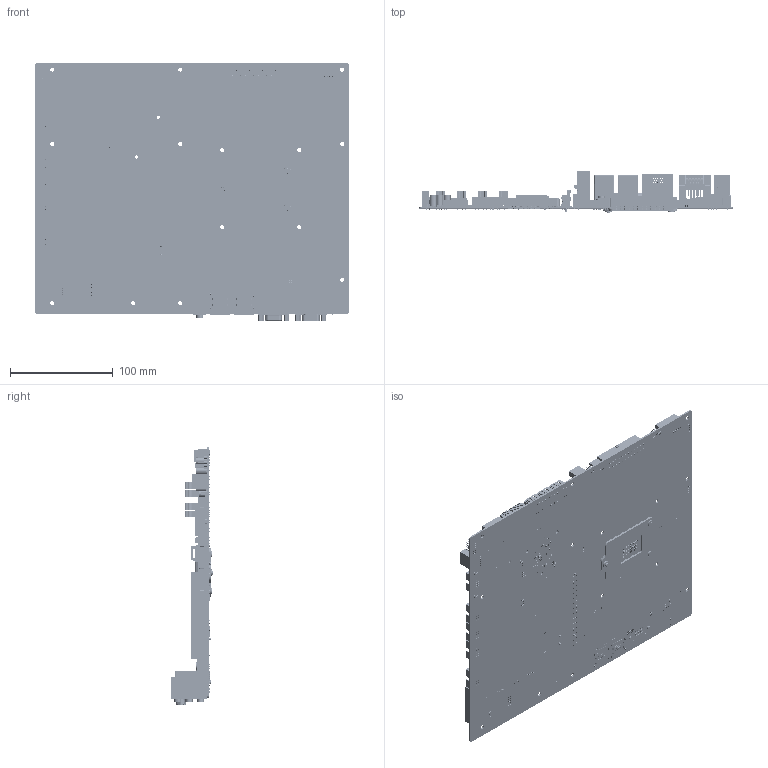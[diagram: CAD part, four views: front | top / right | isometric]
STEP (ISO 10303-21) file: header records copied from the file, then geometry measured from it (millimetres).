
FILE_DESCRIPTION((''),'2;1');
FILE_NAME('00-EAX-C236P_ASM','2022-08-10T17:11:40',('isaac_lin'),(''),'CREO PARAMETRIC BY PTC INC, 2017260','CREO PARAMETRIC BY PTC INC, 2017260','');
FILE_SCHEMA(('CONFIG_CONTROL_DESIGN'));
Products named in the file (169): 01_EAX-Q170P_PCB_RNM_RNM; M3520D-A5XX-XXXXX_MID_-2USB; 1654010425___; D3JP-360287-00_HDMI; D3JM-360311-00_H_VGA; __-__6-261891_AF0; __-__3_2__AF0; __-__7-703697_AF0; D33N-392590-00_DP_ASM; USB-LAN_12GS1400102F04; D3JY-360095-00_AUDIO; __-_____5_1_; 01_EMX-Q170P_PCB_RNM_ASM; 00_EMX-Q170P_ASM; PCIE-01; PCIE-02; MSBR-230; PCI-04; D33A-520200-00_DIMM; 1-1-SOLID6; 1-1-SOLID9; 1-1-SOLID8; 1-1-SOLID2; 1-1-SOLID5; 1-1-SOLID7; 1-1-SOLID1; 1-1-SOLID3; 1-1-SOLID4; SOK-06_ASM; 01_Q87R-CPU_MODULE_ASM; PH-34; 1654009613___; PSU-12; DIE_FOR_H23400_H23399; H23400_-_KOZ; EPOXY_FOR_H23400_H23399; H23399_-_KIZ; SAF1_METAL; BS_PIN1_METAL; PIN1_METAL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
Assembly tree (3886 placements, depth 7):
  00-EAX-C236P_ASM
    01_EAX-Q170P_PCB_ASM
      01_EAX-Q170P_PCB_RNM_RNM
      00_EMX-Q170P_ASM
        01_EMX-Q170P_PCB_RNM_ASM
          M3520D-A5XX-XXXXX_MID_-2USB
          1654010425___
          D3JP-360287-00_HDMI
          D3JM-360311-00_H_VGA
          D33N-392590-00_DP_ASM
            __-__6-261891_AF0
            __-__3_2__AF0
            __-__7-703697_AF0
          USB-LAN_12GS1400102F04  x2
          D3JY-360095-00_AUDIO
          __-_____5_1_
      PCIE-01
      PCIE-02
      MSBR-230
      PCI-04  x4
      D33A-520200-00_DIMM  x4
      01_Q87R-CPU_MODULE_ASM
        SOK-06_ASM
          1-1-SOLID6
          1-1-SOLID9
          1-1-SOLID8
          1-1-SOLID2
          1-1-SOLID5
          1-1-SOLID7
          1-1-SOLID1
          1-1-SOLID3
          1-1-SOLID4
      PH-34  x5
      1654009613___  x6
      PSU-12
      H23400_REV_09_FINAL_ASM
        DIE_FOR_H23400_H23399
        H23400_-_KOZ
        EPOXY_FOR_H23400_H23399
        H23399_-_KIZ
        H23398_-004_ASM
          H23398_-_SUBSTRATE_-004_ASM
            SAF1_METAL
            BS_PIN1_METAL
            PIN1_METAL
            IHS_SRO
            IHS_METAL
            SAF1_SRO
            SAF2_METAL
            PIN1_SRO
            SAF2_SRO
            SUBSTRATE
            BS_PIN1_SRO
          H23398_-_BGA_LAND_ASSY_ASM
            H23398_-_BGA_LAND_ASM  x837
              BS_BGALAND_SRO
              BS_BGALAND_METAL
        H23399_-_BGA_PATTERN_ASM
          H23399_-_BGA_BALL  x837
      M_2SOCKET_APCI0094_DRAW
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Bounding box: 304.8 x 41.1 x 250.75 mm (x, y, z)
Volume: 320282.2 mm3; surface area: 355006.1 mm2
Topology: 4730 solids, 4799 shells, 41637 faces, 149029 edges, 156663 vertices
Faces by surface type: plane 32716, cylinder 6572, sphere 1702, cone 321, extrusion 134, torus 107, bspline 85
Entity records: 769465 total; most frequent: DIRECTION 154638, CARTESIAN_POINT 151059, ORIENTED_EDGE 69824, VECTOR 64390, LINE 64360, TRIMMED_CURVE 54441, AXIS2_PLACEMENT_3D 45124, EDGE_CURVE 35063
